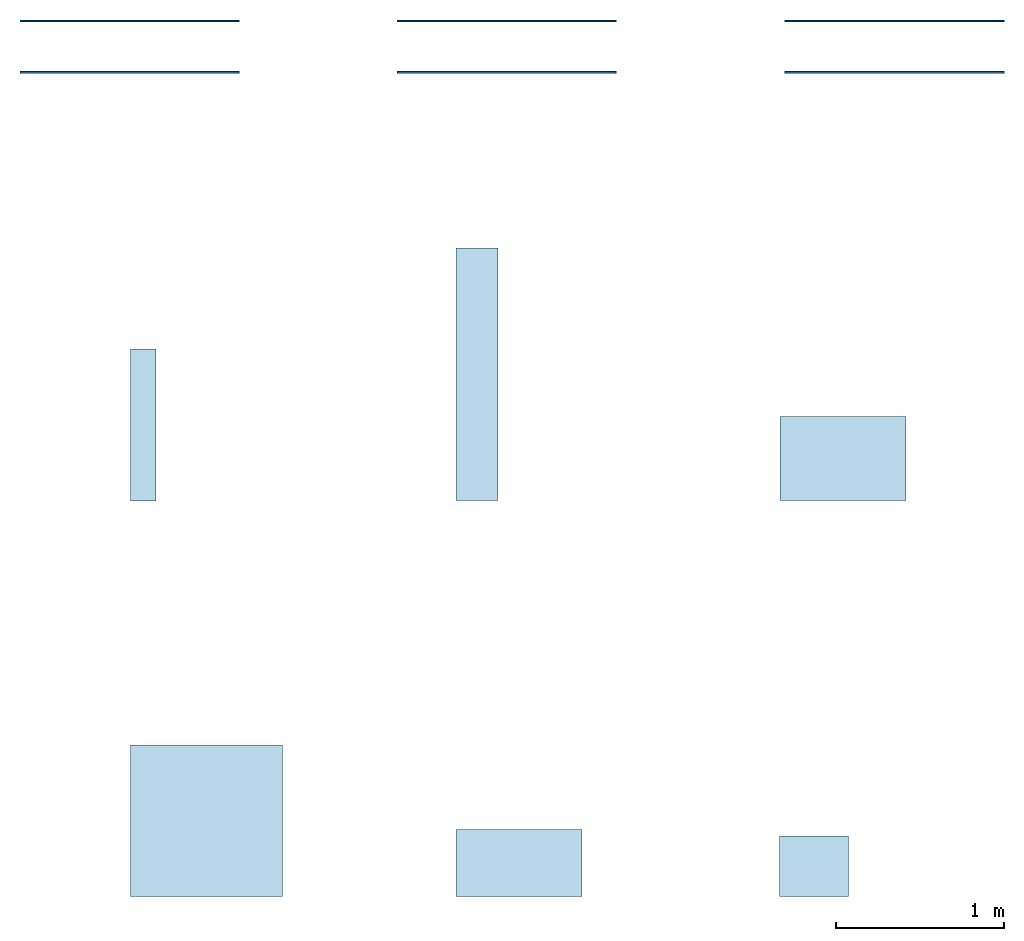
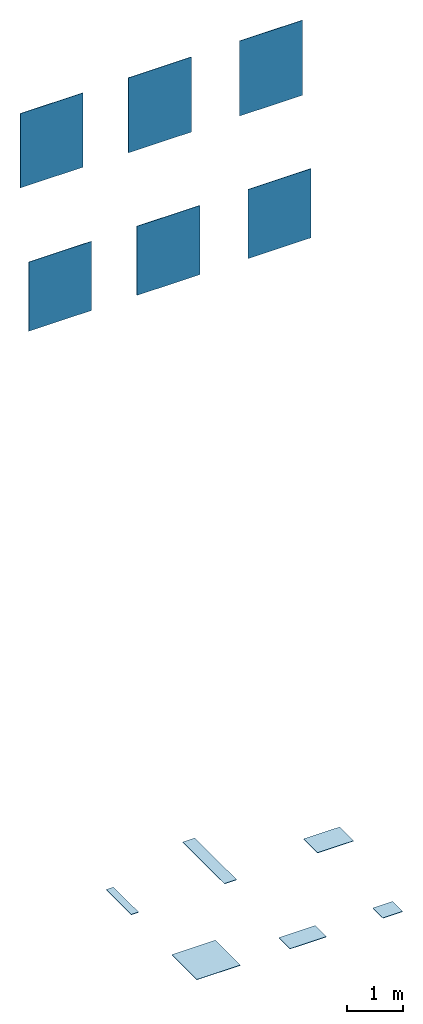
# One storey: 6 slabs, 6 walls.
"""IFC2X3 building model written with IfcOpenShell, lengths in millimetres."""

from ifc_helpers import new_model, entity, si_unit, converted_unit, derived_unit, direction, frame, frame_2d, origin, place, context, subcontext, project, spatial, rectangle, extrude, material, layer, layer_set, layer_usage, type_object, element, save


model = new_model("IFC2X3")

# Units and contexts
model_context = context("Model", 3, precision=0.01, world=origin(), true_north=direction((6.12303176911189e-17, 1.0)))
body_context = subcontext(model_context, "Body", "Model", "MODEL_VIEW")
ifc_project = project(units=[si_unit("LENGTHUNIT", "METRE", prefix="MILLI"), si_unit("AREAUNIT", "SQUARE_METRE"), si_unit("VOLUMEUNIT", "CUBIC_METRE"), converted_unit("PLANEANGLEUNIT", "DEGREE", entity("IfcRatioMeasure", 0.0174532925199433), si_unit("PLANEANGLEUNIT", "RADIAN"), dimensions=[0, 0, 0, 0, 0, 0, 0]), si_unit("MASSUNIT", "GRAM", prefix="KILO"), derived_unit("MASSDENSITYUNIT", [(si_unit("MASSUNIT", "GRAM", prefix="KILO"), 1), (si_unit("LENGTHUNIT", "METRE"), -3)]), derived_unit("MOMENTOFINERTIAUNIT", [(si_unit("LENGTHUNIT", "METRE"), 4)]), si_unit("TIMEUNIT", "SECOND"), si_unit("FREQUENCYUNIT", "HERTZ"), si_unit("THERMODYNAMICTEMPERATUREUNIT", "DEGREE_CELSIUS"), derived_unit("THERMALTRANSMITTANCEUNIT", [(si_unit("MASSUNIT", "GRAM", prefix="KILO"), 1), (si_unit("THERMODYNAMICTEMPERATUREUNIT", "KELVIN"), -1), (si_unit("TIMEUNIT", "SECOND"), -3)]), derived_unit("VOLUMETRICFLOWRATEUNIT", [(si_unit("LENGTHUNIT", "METRE"), 3), (si_unit("TIMEUNIT", "SECOND"), -1)]), si_unit("ELECTRICCURRENTUNIT", "AMPERE"), si_unit("ELECTRICVOLTAGEUNIT", "VOLT"), si_unit("POWERUNIT", "WATT"), si_unit("FORCEUNIT", "NEWTON", prefix="KILO"), si_unit("ILLUMINANCEUNIT", "LUX"), si_unit("LUMINOUSFLUXUNIT", "LUMEN"), si_unit("LUMINOUSINTENSITYUNIT", "CANDELA"), derived_unit("USERDEFINED", [(si_unit("MASSUNIT", "GRAM", prefix="KILO"), -1), (si_unit("LENGTHUNIT", "METRE"), -2), (si_unit("TIMEUNIT", "SECOND"), 3), (si_unit("LUMINOUSFLUXUNIT", "LUMEN"), 1)]), derived_unit("LINEARVELOCITYUNIT", [(si_unit("LENGTHUNIT", "METRE"), 1), (si_unit("TIMEUNIT", "SECOND"), -1)]), si_unit("PRESSUREUNIT", "PASCAL"), derived_unit("USERDEFINED", [(si_unit("LENGTHUNIT", "METRE"), -2), (si_unit("MASSUNIT", "GRAM", prefix="KILO"), 1), (si_unit("TIMEUNIT", "SECOND"), -2)]), derived_unit("LINEARFORCEUNIT", [(si_unit("MASSUNIT", "GRAM", prefix="KILO"), 1), (si_unit("LENGTHUNIT", "METRE"), 1), (si_unit("TIMEUNIT", "SECOND"), -2), (si_unit("LENGTHUNIT", "METRE"), -1)]), derived_unit("PLANARFORCEUNIT", [(si_unit("MASSUNIT", "GRAM", prefix="KILO"), 1), (si_unit("LENGTHUNIT", "METRE"), 1), (si_unit("TIMEUNIT", "SECOND"), -2), (si_unit("LENGTHUNIT", "METRE"), -2)])], contexts=[model_context])

# Site, building, storey
site_placement = place(None, origin())
site = spatial("IfcSite", under=ifc_project, at=site_placement, Name="Default", CompositionType="ELEMENT")
building_placement = place(site_placement, origin())
building = spatial("IfcBuilding", under=site, at=building_placement, CompositionType="ELEMENT")
storey_placement = place(building_placement, origin())
storey = spatial("IfcBuildingStorey", under=building, at=storey_placement, Name="Level 0", CompositionType="ELEMENT", Elevation=0.0)

# Slabs
ifc_material_1 = material(Name="Cortina-Honey-25x150 OF83")
ifc_layer_1 = layer(ifc_material_1, 9.0)
ifc_material_2 = material(Name="<Unnamed>")
ifc_layer_2 = layer(ifc_material_2, 1.0)
ifc_layer_set_1 = layer_set([ifc_layer_1, ifc_layer_2], Name="Floor:Floor_Tiles_Refin-Cortina-Honey-25x150 OF83")
ifc_layer_usage_1 = layer_usage(ifc_layer_set_1, "AXIS3", "POSITIVE", 0.0)
slab_type_1 = type_object("IfcSlabType", Name="Floor:Floor_Tiles_Refin-Cortina-Honey-25x150 OF83", PredefinedType="FLOOR", material=ifc_layer_set_1)
slab_1_placement = place(storey_placement, origin())
element("IfcSlab", 1, at=slab_1_placement, inside=storey, type_object=slab_type_1, material=ifc_layer_usage_1, Name="Floor:Floor_Tiles_Refin-Cortina-Honey-25x150 OF83", ObjectType="Floor:Floor_Tiles_Refin-Cortina-Honey-25x150 OF83", PredefinedType="FLOOR", context=body_context, shape_type="SweptSolid", body=[
    extrude(rectangle(XDim=1500.0, YDim=249.999999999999, at=frame_2d((5.11590769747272e-13, 0.0), x_axis=(1.0, 0.0))), frame((8629.16894258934, 6039.46237428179, 0.0), z_axis=(0.0, 0.0, -1.0), x_axis=(0.0, 1.0, 0.0)), (0.0, 0.0, 1.0), 10.0),
])
ifc_material_3 = material(Name="Cortina-Honey-Esagono-25x21.6 OG75")
ifc_layer_3 = layer(ifc_material_3, 9.0)
ifc_layer_4 = layer(ifc_material_2, 1.0)
ifc_layer_set_2 = layer_set([ifc_layer_3, ifc_layer_4], Name="Floor:Floor_Tiles_Refin-Cortina-Honey-Esagono-25x21.6 OG75")
ifc_layer_usage_2 = layer_usage(ifc_layer_set_2, "AXIS3", "POSITIVE", 0.0)
slab_type_2 = type_object("IfcSlabType", Name="Floor:Floor_Tiles_Refin-Cortina-Honey-Esagono-25x21.6 OG75", PredefinedType="FLOOR", material=ifc_layer_set_2)
slab_2_placement = place(storey_placement, origin())
element("IfcSlab", 2, at=slab_2_placement, inside=storey, type_object=slab_type_2, material=ifc_layer_usage_2, Name="Floor:Floor_Tiles_Refin-Cortina-Honey-Esagono-25x21.6 OG75", ObjectType="Floor:Floor_Tiles_Refin-Cortina-Honey-Esagono-25x21.6 OG75", PredefinedType="FLOOR", context=body_context, shape_type="SweptSolid", body=[
    extrude(rectangle(XDim=400.0, YDim=750.000000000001, at=frame_2d((0.0, -1.08002495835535e-12), x_axis=(1.0, 0.0))), frame((8879.16894258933, 3139.46237428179, 0.0), z_axis=(0.0, 0.0, -1.0), x_axis=(0.0, 1.0, 0.0)), (0.0, 0.0, 1.0), 10.0),
])
ifc_material_4 = material(Name="Cortina-Honey-Chalet-12.5x75 OG81")
ifc_layer_5 = layer(ifc_material_4, 9.0)
ifc_layer_6 = layer(ifc_material_2, 1.0)
ifc_layer_set_3 = layer_set([ifc_layer_5, ifc_layer_6], Name="Floor:Floor_Tiles_Refin-Cortina-Honey-Chalet-12.5x75 OG81")
ifc_layer_usage_3 = layer_usage(ifc_layer_set_3, "AXIS3", "POSITIVE", 0.0)
slab_type_3 = type_object("IfcSlabType", Name="Floor:Floor_Tiles_Refin-Cortina-Honey-Chalet-12.5x75 OG81", PredefinedType="FLOOR", material=ifc_layer_set_3)
slab_3_placement = place(storey_placement, origin())
element("IfcSlab", 3, at=slab_3_placement, inside=storey, type_object=slab_type_3, material=ifc_layer_usage_3, Name="Floor:Floor_Tiles_Refin-Cortina-Honey-Chalet-12.5x75 OG81", ObjectType="Floor:Floor_Tiles_Refin-Cortina-Honey-Chalet-12.5x75 OG81", PredefinedType="FLOOR", context=body_context, shape_type="SweptSolid", body=[
    extrude(rectangle(XDim=500.0, YDim=750.000000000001, at=frame_2d((-5.40012479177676e-13, 1.08002495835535e-12), x_axis=(1.0, 0.0))), frame((10802.1861418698, 5539.46237428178, 0.0), z_axis=(0.0, 0.0, -1.0), x_axis=(0.0, 1.0, 0.0)), (0.0, 0.0, 1.0), 10.0),
])
ifc_material_5 = material(Name="Cortina-Honey-Herringbone-36.2x41.2 OG42")
ifc_layer_7 = layer(ifc_material_5, 9.0)
ifc_layer_8 = layer(ifc_material_2, 1.0)
ifc_layer_set_4 = layer_set([ifc_layer_7, ifc_layer_8], Name="Floor:Floor_Tiles_Refin-Cortina-Honey-Herringbone-36.2x41.2 OG42")
ifc_layer_usage_4 = layer_usage(ifc_layer_set_4, "AXIS3", "POSITIVE", 0.0)
slab_type_4 = type_object("IfcSlabType", Name="Floor:Floor_Tiles_Refin-Cortina-Honey-Herringbone-36.2x41.2 OG42", PredefinedType="FLOOR", material=ifc_layer_set_4)
slab_4_placement = place(storey_placement, origin())
element("IfcSlab", 4, at=slab_4_placement, inside=storey, type_object=slab_type_4, material=ifc_layer_usage_4, Name="Floor:Floor_Tiles_Refin-Cortina-Honey-Herringbone-36.2x41.2 OG42", ObjectType="Floor:Floor_Tiles_Refin-Cortina-Honey-Herringbone-36.2x41.2 OG42", PredefinedType="FLOOR", context=body_context, shape_type="SweptSolid", body=[
    extrude(rectangle(XDim=360.0, YDim=410.0, at=frame_2d((2.70006239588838e-13, 1.09423581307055e-12), x_axis=(1.0, 0.0))), frame((10630.4118687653, 3119.46237428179, 0.0), z_axis=(0.0, 0.0, -1.0), x_axis=(0.0, 1.0, 0.0)), (0.0, 0.0, 1.0), 10.0),
])
ifc_material_6 = material(Name="Cortina-Honey-15x90 OI73")
ifc_layer_9 = layer(ifc_material_6, 9.0)
ifc_layer_10 = layer(ifc_material_2, 1.0)
ifc_layer_set_5 = layer_set([ifc_layer_9, ifc_layer_10], Name="Floor:Floor_Tiles_Refin-Cortina-Honey-15x90 OI73")
ifc_layer_usage_5 = layer_usage(ifc_layer_set_5, "AXIS3", "POSITIVE", 0.0)
slab_type_5 = type_object("IfcSlabType", Name="Floor:Floor_Tiles_Refin-Cortina-Honey-15x90 OI73", PredefinedType="FLOOR", material=ifc_layer_set_5)
slab_5_placement = place(storey_placement, origin())
element("IfcSlab", 5, at=slab_5_placement, inside=storey, type_object=slab_type_5, material=ifc_layer_usage_5, Name="Floor:Floor_Tiles_Refin-Cortina-Honey-15x90 OI73", ObjectType="Floor:Floor_Tiles_Refin-Cortina-Honey-15x90 OI73", PredefinedType="FLOOR", context=body_context, shape_type="SweptSolid", body=[
    extrude(rectangle(XDim=900.0, YDim=150.000000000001, at=frame_2d((5.40012479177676e-13, 0.0), x_axis=(1.0, 0.0))), frame((6649.37520617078, 5738.41920639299, 0.0), z_axis=(0.0, 0.0, -1.0), x_axis=(0.0, 1.0, 0.0)), (0.0, 0.0, 1.0), 10.0),
])
ifc_material_7 = material(Name="Cortina-Honey-Chalet-15x90 OG85")
ifc_layer_11 = layer(ifc_material_7, 9.0)
ifc_layer_12 = layer(ifc_material_2, 1.0)
ifc_layer_set_6 = layer_set([ifc_layer_11, ifc_layer_12], Name="Floor:Floor_Tiles_Refin-Cortina-Honey-Chalet-15x90 OG85")
ifc_layer_usage_6 = layer_usage(ifc_layer_set_6, "AXIS3", "POSITIVE", 0.0)
slab_type_6 = type_object("IfcSlabType", Name="Floor:Floor_Tiles_Refin-Cortina-Honey-Chalet-15x90 OG85", PredefinedType="FLOOR", material=ifc_layer_set_6)
slab_6_placement = place(storey_placement, origin())
element("IfcSlab", 6, at=slab_6_placement, inside=storey, type_object=slab_type_6, material=ifc_layer_usage_6, Name="Floor:Floor_Tiles_Refin-Cortina-Honey-Chalet-15x90 OG85", ObjectType="Floor:Floor_Tiles_Refin-Cortina-Honey-Chalet-15x90 OG85", PredefinedType="FLOOR", context=body_context, shape_type="SweptSolid", body=[
    extrude(rectangle(XDim=900.0, YDim=900.0, at=frame_2d((0.0, 5.40012479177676e-13), x_axis=(1.0, 0.0))), frame((7024.37520617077, 3389.4623742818, 0.0), z_axis=(0.0, 0.0, -1.0), x_axis=(0.0, 1.0, 0.0)), (0.0, 0.0, 1.0), 10.0),
])

# Walls
ifc_layer_13 = layer(ifc_material_2, 1.0)
ifc_layer_14 = layer(ifc_material_1, 9.0)
ifc_layer_set_7 = layer_set([ifc_layer_13, ifc_layer_14], Name="Basic Wall:Wall_Tiles_Refin-Cortina-Honey-25x150 OF83")
ifc_layer_usage_7 = layer_usage(ifc_layer_set_7, "AXIS2", "NEGATIVE", 5.0)
wall_type_1 = type_object("IfcWallType", Name="Basic Wall:Wall_Tiles_Refin-Cortina-Honey-25x150 OF83", PredefinedType="STANDARD", material=ifc_layer_set_7)
wall_1_placement = place(storey_placement, frame((8157.37520617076, 8137.38386313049, 14387.6770443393)))
element("IfcWallStandardCase", 7, at=wall_1_placement, inside=storey, type_object=wall_type_1, material=ifc_layer_usage_7, Name="Basic Wall:Wall_Tiles_Refin-Cortina-Honey-25x150 OF83", ObjectType="Basic Wall:Wall_Tiles_Refin-Cortina-Honey-25x150 OF83", context=body_context, shape_type="SweptSolid", body=[
    extrude(rectangle(XDim=1300.0, YDim=9.99999999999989, at=frame_2d((650.0, 7.63833440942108e-14), x_axis=(-1.0, 0.0))), origin(), (0.0, 0.0, 1.0), 1641.74173522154),
])
ifc_layer_15 = layer(ifc_material_2, 1.0)
ifc_layer_16 = layer(ifc_material_4, 9.0)
ifc_layer_set_8 = layer_set([ifc_layer_15, ifc_layer_16], Name="Basic Wall:Wall_Tiles_Refin-Cortina-Honey-Chalet-12.5x75 OG81")
ifc_layer_usage_8 = layer_usage(ifc_layer_set_8, "AXIS2", "NEGATIVE", 5.0)
wall_type_2 = type_object("IfcWallType", Name="Basic Wall:Wall_Tiles_Refin-Cortina-Honey-Chalet-12.5x75 OG81", PredefinedType="STANDARD", material=ifc_layer_set_8)
wall_2_placement = place(storey_placement, frame((10457.3752061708, 8137.38386313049, 14387.6770443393)))
element("IfcWallStandardCase", 8, at=wall_2_placement, inside=storey, type_object=wall_type_2, material=ifc_layer_usage_8, Name="Basic Wall:Wall_Tiles_Refin-Cortina-Honey-Chalet-12.5x75 OG81", ObjectType="Basic Wall:Wall_Tiles_Refin-Cortina-Honey-Chalet-12.5x75 OG81", context=body_context, shape_type="SweptSolid", body=[
    extrude(rectangle(XDim=1300.0, YDim=9.99999999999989, at=frame_2d((650.0, 7.63833440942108e-14), x_axis=(-1.0, 0.0))), origin(), (0.0, 0.0, 1.0), 1641.74173522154),
])
ifc_layer_17 = layer(ifc_material_2, 1.0)
ifc_layer_18 = layer(ifc_material_6, 9.0)
ifc_layer_set_9 = layer_set([ifc_layer_17, ifc_layer_18], Name="Basic Wall:Wall_Tiles_Refin-Cortina-Honey-15x90 OI73")
ifc_layer_usage_9 = layer_usage(ifc_layer_set_9, "AXIS2", "NEGATIVE", 5.0)
wall_type_3 = type_object("IfcWallType", Name="Basic Wall:Wall_Tiles_Refin-Cortina-Honey-15x90 OI73", PredefinedType="STANDARD", material=ifc_layer_set_9)
wall_3_placement = place(storey_placement, frame((5917.37520617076, 8137.38386313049, 14403.726734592)))
element("IfcWallStandardCase", 9, at=wall_3_placement, inside=storey, type_object=wall_type_3, material=ifc_layer_usage_9, Name="Basic Wall:Wall_Tiles_Refin-Cortina-Honey-15x90 OI73", ObjectType="Basic Wall:Wall_Tiles_Refin-Cortina-Honey-15x90 OI73", context=body_context, shape_type="SweptSolid", body=[
    extrude(rectangle(XDim=1300.0, YDim=9.99999999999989, at=frame_2d((650.0, 7.63833440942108e-14), x_axis=(-1.0, 0.0))), origin(), (0.0, 0.0, 1.0), 1625.69204496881),
])
ifc_layer_19 = layer(ifc_material_2, 1.0)
ifc_layer_20 = layer(ifc_material_7, 9.0)
ifc_layer_set_10 = layer_set([ifc_layer_19, ifc_layer_20], Name="Basic Wall:Wall_Tiles_Refin-Cortina-Honey-Chalet-15x90 OG85")
ifc_layer_usage_10 = layer_usage(ifc_layer_set_10, "AXIS2", "NEGATIVE", 5.0)
wall_type_4 = type_object("IfcWallType", Name="Basic Wall:Wall_Tiles_Refin-Cortina-Honey-Chalet-15x90 OG85", PredefinedType="STANDARD", material=ifc_layer_set_10)
wall_4_placement = place(storey_placement, frame((5917.37520617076, 7832.38386313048, 11452.5436262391)))
element("IfcWallStandardCase", 10, at=wall_4_placement, inside=storey, type_object=wall_type_4, material=ifc_layer_usage_10, Name="Basic Wall:Wall_Tiles_Refin-Cortina-Honey-Chalet-15x90 OG85", ObjectType="Basic Wall:Wall_Tiles_Refin-Cortina-Honey-Chalet-15x90 OG85", context=body_context, shape_type="SweptSolid", body=[
    extrude(rectangle(XDim=1300.0, YDim=9.99999999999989, at=frame_2d((650.0, 0.0), x_axis=(-1.0, 0.0))), origin(), (0.0, 0.0, 1.0), 1513.19855655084),
])
ifc_layer_21 = layer(ifc_material_2, 1.0)
ifc_layer_22 = layer(ifc_material_3, 9.0)
ifc_layer_set_11 = layer_set([ifc_layer_21, ifc_layer_22], Name="Basic Wall:Wall_Tiles_Refin-Cortina-Honey-Esagono-25x21.6 OG75")
ifc_layer_usage_11 = layer_usage(ifc_layer_set_11, "AXIS2", "NEGATIVE", 5.0)
wall_type_5 = type_object("IfcWallType", Name="Basic Wall:Wall_Tiles_Refin-Cortina-Honey-Esagono-25x21.6 OG75", PredefinedType="STANDARD", material=ifc_layer_set_11)
wall_5_placement = place(storey_placement, frame((8157.37520617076, 7832.38386313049, 11452.5436262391)))
element("IfcWallStandardCase", 11, at=wall_5_placement, inside=storey, type_object=wall_type_5, material=ifc_layer_usage_11, Name="Basic Wall:Wall_Tiles_Refin-Cortina-Honey-Esagono-25x21.6 OG75", ObjectType="Basic Wall:Wall_Tiles_Refin-Cortina-Honey-Esagono-25x21.6 OG75", context=body_context, shape_type="SweptSolid", body=[
    extrude(rectangle(XDim=1300.0, YDim=9.99999999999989, at=frame_2d((650.0, 0.0), x_axis=(-1.0, 0.0))), origin(), (0.0, 0.0, 1.0), 1513.19855655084),
])
ifc_layer_23 = layer(ifc_material_2, 1.0)
ifc_layer_24 = layer(ifc_material_5, 9.0)
ifc_layer_set_12 = layer_set([ifc_layer_23, ifc_layer_24], Name="Basic Wall:Wall_Tiles_Refin-Cortina-Honey-Herringbone-36.2x41.2 OG42")
ifc_layer_usage_12 = layer_usage(ifc_layer_set_12, "AXIS2", "NEGATIVE", 5.0)
wall_type_6 = type_object("IfcWallType", Name="Basic Wall:Wall_Tiles_Refin-Cortina-Honey-Herringbone-36.2x41.2 OG42", PredefinedType="STANDARD", material=ifc_layer_set_12)
wall_6_placement = place(storey_placement, frame((10457.3752061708, 7832.38386313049, 11452.5436262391)))
element("IfcWallStandardCase", 12, at=wall_6_placement, inside=storey, type_object=wall_type_6, material=ifc_layer_usage_12, Name="Basic Wall:Wall_Tiles_Refin-Cortina-Honey-Herringbone-36.2x41.2 OG42", ObjectType="Basic Wall:Wall_Tiles_Refin-Cortina-Honey-Herringbone-36.2x41.2 OG42", context=body_context, shape_type="SweptSolid", body=[
    extrude(rectangle(XDim=1300.0, YDim=9.99999999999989, at=frame_2d((650.000000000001, 0.0), x_axis=(-1.0, 0.0))), origin(), (0.0, 0.0, 1.0), 1513.19855655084),
])

save(model, "model.ifc")
